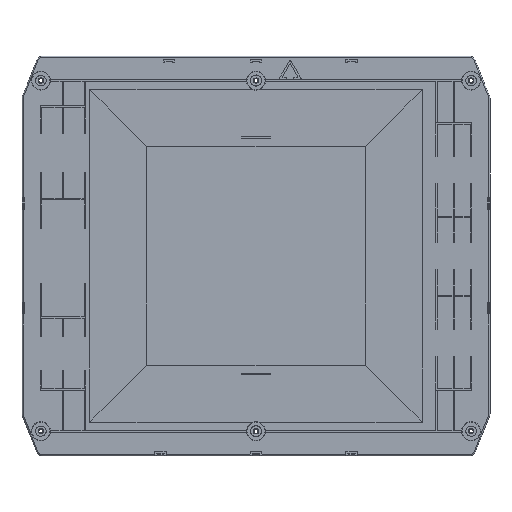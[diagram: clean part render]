
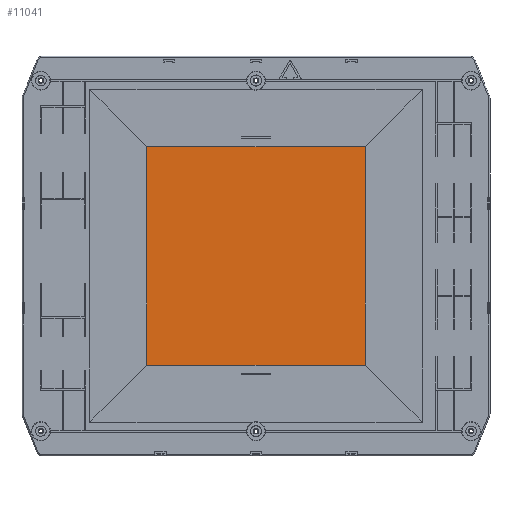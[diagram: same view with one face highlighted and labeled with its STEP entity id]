
A CAD part, front view. The second image highlights one B-rep face of the part: STEP entity #11041.
In plain terms, the highlighted planar face has unit normal (0, -1, 0).
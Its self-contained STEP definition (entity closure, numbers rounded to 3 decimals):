
#3151=DIRECTION('',(0.,0.,1.));
#3152=VECTOR('',#3151,96.);
#3153=CARTESIAN_POINT('',(48.,57.6,-48.));
#3154=LINE('',#3153,#3152);
#3155=DIRECTION('',(1.,0.,0.));
#3156=VECTOR('',#3155,96.);
#3157=CARTESIAN_POINT('',(-48.,57.6,-48.));
#3158=LINE('',#3157,#3156);
#3159=DIRECTION('',(0.,0.,-1.));
#3160=VECTOR('',#3159,96.);
#3161=CARTESIAN_POINT('',(-48.,57.6,48.));
#3162=LINE('',#3161,#3160);
#3163=DIRECTION('',(-1.,0.,0.));
#3164=VECTOR('',#3163,96.);
#3165=CARTESIAN_POINT('',(48.,57.6,48.));
#3166=LINE('',#3165,#3164);
#6508=CARTESIAN_POINT('',(48.,57.6,-48.));
#6509=CARTESIAN_POINT('',(48.,57.6,48.));
#6510=VERTEX_POINT('',#6508);
#6511=VERTEX_POINT('',#6509);
#6512=CARTESIAN_POINT('',(-48.,57.6,48.));
#6513=VERTEX_POINT('',#6512);
#6514=CARTESIAN_POINT('',(-48.,57.6,-48.));
#6515=VERTEX_POINT('',#6514);
#11030=CARTESIAN_POINT('',(0.,57.6,0.));
#11031=DIRECTION('',(0.,-1.,0.));
#11032=DIRECTION('',(-1.,0.,0.));
#11033=AXIS2_PLACEMENT_3D('',#11030,#11031,#11032);
#11034=PLANE('',#11033);
#11035=ORIENTED_EDGE('',*,*,#11009,.F.);
#11036=ORIENTED_EDGE('',*,*,#11025,.F.);
#11037=ORIENTED_EDGE('',*,*,#10980,.F.);
#11038=ORIENTED_EDGE('',*,*,#10995,.F.);
#11039=EDGE_LOOP('',(#11035,#11036,#11037,#11038));
#11040=FACE_OUTER_BOUND('',#11039,.F.);
#11041=ADVANCED_FACE('',(#11040),#11034,.T.);
#10980=EDGE_CURVE('',#6513,#6515,#3162,.T.);
#10995=EDGE_CURVE('',#6511,#6513,#3166,.T.);
#11009=EDGE_CURVE('',#6510,#6511,#3154,.T.);
#11025=EDGE_CURVE('',#6515,#6510,#3158,.T.);
